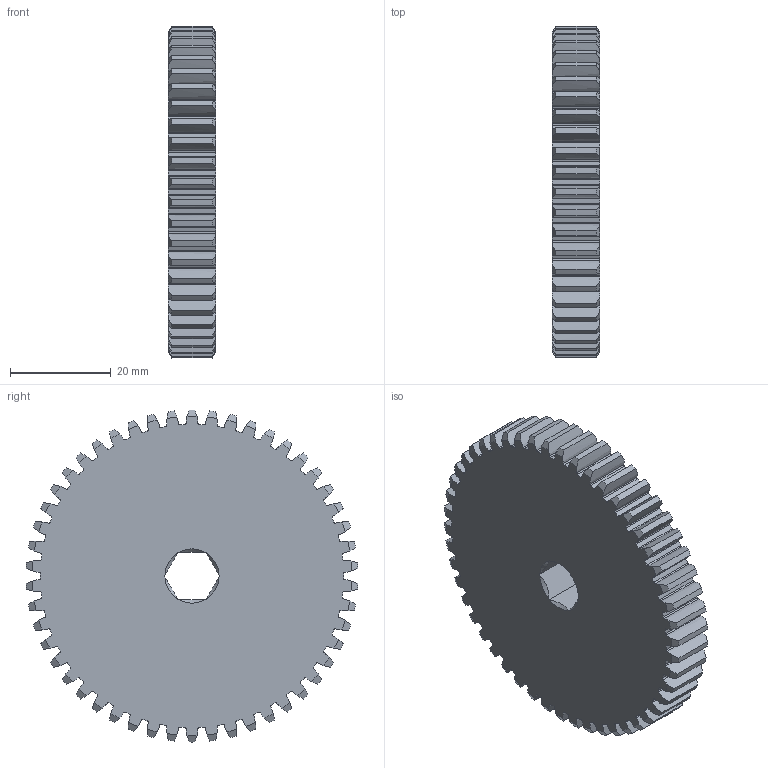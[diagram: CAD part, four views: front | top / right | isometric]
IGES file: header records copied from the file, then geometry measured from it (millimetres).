
Global section: file name: No Iges File Name specified; native system: AutoDesk Inventor R6.0; preprocessor: AutoDesk Inventor Iges Exporter R6.0; author: No Author specified; organization: No Organization specified; date: 20080103.191616; units: inch
Bounding box: 9.53 x 65.97 x 66.04 mm (x, y, z)
Surface area: 10232.4 mm2 (no closed solid volume)
Topology: 0 solids, 0 shells, 420 faces, 2532 edges, 2532 vertices
Faces by surface type: revolution 412, plane 8
